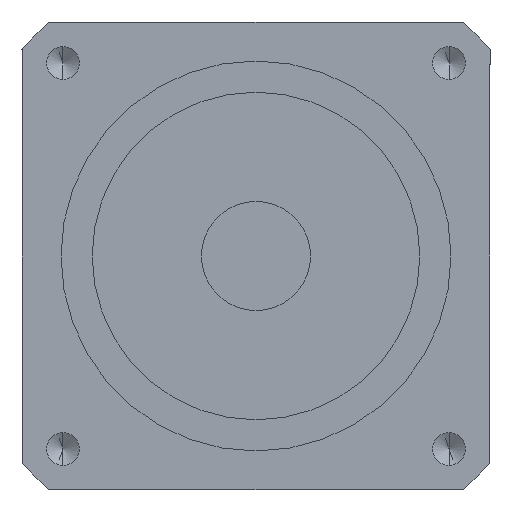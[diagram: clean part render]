
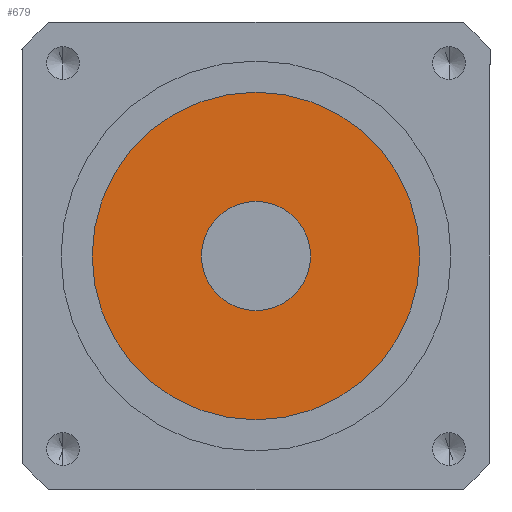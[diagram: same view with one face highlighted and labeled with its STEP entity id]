
A CAD part, front view. The second image highlights one B-rep face of the part: STEP entity #679.
In plain terms, the highlighted planar face has unit normal (0, -1, 0).
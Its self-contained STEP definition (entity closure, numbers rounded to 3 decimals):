
#9 = AXIS2_PLACEMENT_3D ( 'NONE', #1527, #3986, #1863 ) ;
#178 = DIRECTION ( 'NONE',  ( 0., -1., 0. ) ) ;
#208 = ORIENTED_EDGE ( 'NONE', *, *, #3622, .T. ) ;
#218 = ORIENTED_EDGE ( 'NONE', *, *, #666, .T. ) ;
#259 = ORIENTED_EDGE ( 'NONE', *, *, #1624, .F. ) ;
#267 = ORIENTED_EDGE ( 'NONE', *, *, #867, .F. ) ;
#520 = VERTEX_POINT ( 'NONE', #2216 ) ;
#630 = VERTEX_POINT ( 'NONE', #4099 ) ;
#666 = EDGE_CURVE ( 'NONE', #520, #630, #2908, .T. ) ;
#679 = ADVANCED_FACE ( 'NONE', ( #1107, #844 ), #1678, .T. ) ;
#683 = CARTESIAN_POINT ( 'NONE',  ( 0., -72., 0. ) ) ;
#844 = FACE_BOUND ( 'NONE', #2304, .T. ) ;
#867 = EDGE_CURVE ( 'NONE', #1149, #975, #3589, .T. ) ;
#975 = VERTEX_POINT ( 'NONE', #4076 ) ;
#1068 = DIRECTION ( 'NONE',  ( 1., 0., 0. ) ) ;
#1107 = FACE_OUTER_BOUND ( 'NONE', #3347, .T. ) ;
#1149 = VERTEX_POINT ( 'NONE', #4616 ) ;
#1330 = CARTESIAN_POINT ( 'NONE',  ( -7., -72., 0. ) ) ;
#1527 = CARTESIAN_POINT ( 'NONE',  ( 0., -72., 0. ) ) ;
#1624 = EDGE_CURVE ( 'NONE', #975, #1149, #2540, .T. ) ;
#1678 = PLANE ( 'NONE',  #2392 ) ;
#1712 = AXIS2_PLACEMENT_3D ( 'NONE', #2010, #4508, #2360 ) ;
#1863 = DIRECTION ( 'NONE',  ( 1., 0., 0. ) ) ;
#1901 = DIRECTION ( 'NONE',  ( 0., -1., 0. ) ) ;
#2010 = CARTESIAN_POINT ( 'NONE',  ( 0., -72., 0. ) ) ;
#2216 = CARTESIAN_POINT ( 'NONE',  ( 21., -72., 0. ) ) ;
#2304 = EDGE_LOOP ( 'NONE', ( #267, #259 ) ) ;
#2360 = DIRECTION ( 'NONE',  ( 1., 0., 0. ) ) ;
#2392 = AXIS2_PLACEMENT_3D ( 'NONE', #1330, #178, #2702 ) ;
#2540 = CIRCLE ( 'NONE', #3628, 7. ) ;
#2702 = DIRECTION ( 'NONE',  ( 1., 0., 0. ) ) ;
#2908 = CIRCLE ( 'NONE', #1712, 21. ) ;
#3159 = DIRECTION ( 'NONE',  ( 0., -1., 0. ) ) ;
#3347 = EDGE_LOOP ( 'NONE', ( #218, #208 ) ) ;
#3589 = CIRCLE ( 'NONE', #9, 7. ) ;
#3622 = EDGE_CURVE ( 'NONE', #630, #520, #4397, .T. ) ;
#3628 = AXIS2_PLACEMENT_3D ( 'NONE', #683, #3159, #1068 ) ;
#3986 = DIRECTION ( 'NONE',  ( 0., -1., 0. ) ) ;
#4028 = CARTESIAN_POINT ( 'NONE',  ( 0., -72., 0. ) ) ;
#4076 = CARTESIAN_POINT ( 'NONE',  ( -7., -72., 0. ) ) ;
#4099 = CARTESIAN_POINT ( 'NONE',  ( -21., -72., 0. ) ) ;
#4383 = DIRECTION ( 'NONE',  ( 1., 0., 0. ) ) ;
#4397 = CIRCLE ( 'NONE', #4515, 21. ) ;
#4508 = DIRECTION ( 'NONE',  ( 0., -1., 0. ) ) ;
#4515 = AXIS2_PLACEMENT_3D ( 'NONE', #4028, #1901, #4383 ) ;
#4616 = CARTESIAN_POINT ( 'NONE',  ( 7., -72., 0. ) ) ;
